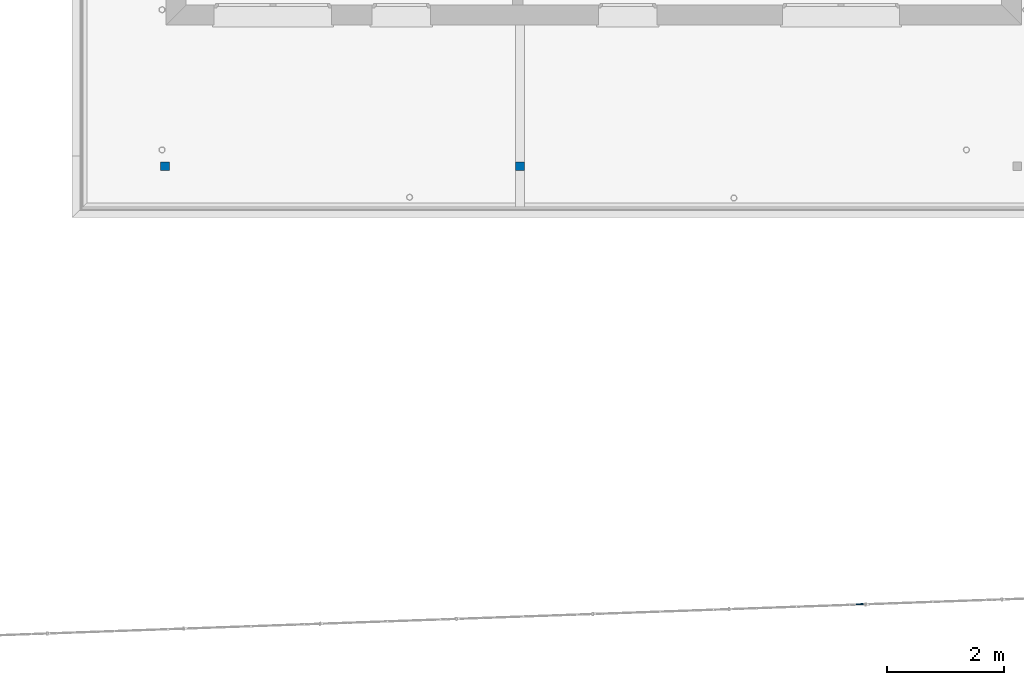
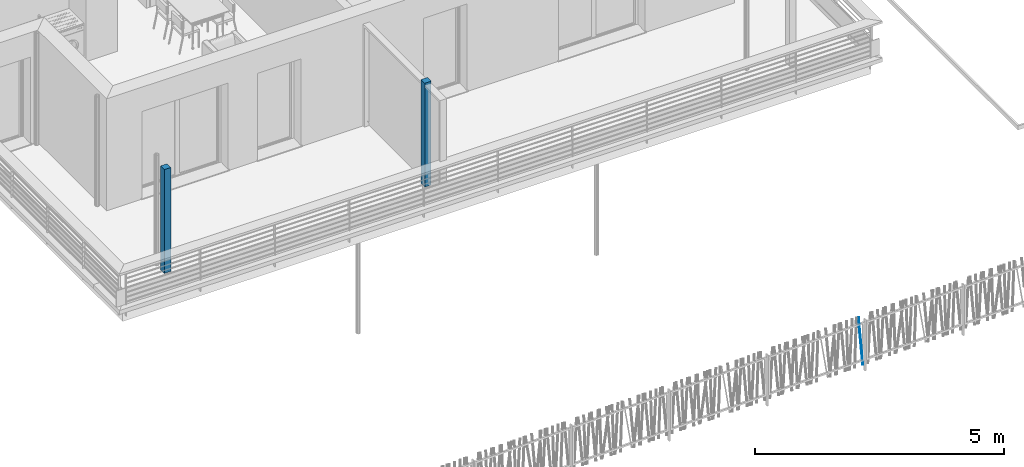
# One storey, part 5 of 171: 3 columns.
"""IFC2X3 building model written with IfcOpenShell, lengths in millimetres."""

from ifc_helpers import new_model, entity, si_unit, converted_unit, derived_unit, money_unit, direction, frame, origin_with_axes, origin_2d_with_axis, place, context, subcontext, project, spatial, rectangle, circle, extrude, clip, halfspace, material, type_object, element, save


model = new_model("IFC2X3")

# Units and contexts
model_context = context("Model", 3, precision=0.01, world=origin_with_axes(), true_north=direction((0.0, 1.0)))
body_context = subcontext(model_context, "Body", "Model", "MODEL_VIEW")
ifc_project = project(units=[si_unit("LENGTHUNIT", "METRE", prefix="MILLI"), si_unit("AREAUNIT", "SQUARE_METRE"), si_unit("VOLUMEUNIT", "CUBIC_METRE"), converted_unit("PLANEANGLEUNIT", "DEGREE", entity("IfcPlaneAngleMeasure", 0.0174532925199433), si_unit("PLANEANGLEUNIT", "RADIAN"), dimensions=[0, 0, 0, 0, 0, 0, 0]), money_unit("USD"), converted_unit("TIMEUNIT", "Year", entity("IfcTimeMeasure", 31557600.0), si_unit("TIMEUNIT", "SECOND"), dimensions=[0, 0, 1, 0, 0, 0, 0]), si_unit("MASSUNIT", "GRAM", prefix="KILO"), si_unit("THERMODYNAMICTEMPERATUREUNIT", "DEGREE_CELSIUS"), si_unit("LUMINOUSINTENSITYUNIT", "LUMEN"), si_unit("ENERGYUNIT", "JOULE", prefix="MEGA"), derived_unit("THERMALCONDUCTANCEUNIT", [(si_unit("POWERUNIT", "WATT"), 1), (si_unit("LENGTHUNIT", "METRE"), -1), (si_unit("THERMODYNAMICTEMPERATUREUNIT", "KELVIN"), -1)]), derived_unit("SPECIFICHEATCAPACITYUNIT", [(si_unit("ENERGYUNIT", "JOULE"), 1), (si_unit("MASSUNIT", "GRAM", prefix="KILO"), -1), (si_unit("THERMODYNAMICTEMPERATUREUNIT", "KELVIN"), -1)]), derived_unit("MASSDENSITYUNIT", [(si_unit("MASSUNIT", "GRAM", prefix="KILO"), 1), (si_unit("VOLUMEUNIT", "CUBIC_METRE"), -1)])], contexts=[model_context])

# Site, building, storey
site_placement = place(None, origin_with_axes())
site = spatial("IfcSite", under=ifc_project, at=site_placement, Name="Site", CompositionType="ELEMENT")
building_placement = place(site_placement, origin_with_axes())
building = spatial("IfcBuilding", under=site, at=building_placement, Name="Bâtiment", CompositionType="ELEMENT")
storey_placement = place(building_placement, frame((0.0, 0.0, 3000.0), z_axis=(0.0, 0.0, 1.0), x_axis=(1.0, 0.0, 0.0)))
storey = spatial("IfcBuildingStorey", under=building, at=storey_placement, Name="rdc", CompositionType="ELEMENT", Elevation=3000.0)

# Columns
ifc_material_1 = material(Name="Empty Fill 2959611567")
column_type_1 = type_object("IfcColumnType", Name="Empty Fill 2959611567 D20", PredefinedType="NOTDEFINED")
column_placement = place(storey_placement, frame((2230101.128642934, -667679.6147038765, -1950.0), z_axis=(0.0, 0.0, 1.0), x_axis=(-0.03567989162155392, 0.9993632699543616, 0.0)))
element("IfcColumn", 1, at=column_placement, inside=storey, type_object=column_type_1, material=ifc_material_1, Name="Pilier-019", context=body_context, shape_type="Clipping", body=[
    clip(clip(extrude(circle(Radius=10.0, at=origin_2d_with_axis()), frame((0.0, -0.152502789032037, -1.743114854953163), z_axis=(0.0, 0.08715574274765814, 0.9961946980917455), x_axis=(1.0, 0.0, 0.0)), (0.0, 0.0, 1.0), 1208.083351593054), halfspace(frame((0.0, 0.0, 0.0), z_axis=(0.0, 0.0, 1.0), x_axis=(0.0, -1.0, 0.0)), True)), halfspace(frame((0.0, 0.0, 1200.0), z_axis=(0.0, 0.0, -1.0), x_axis=(0.0, 1.0, 0.0)), True)),
])
ifc_material_2 = material(Name="Minimal space 288701002")
column_type_2 = type_object("IfcColumnType", Name="Minimal space 288701002 150 x 150", PredefinedType="NOTDEFINED")
for number, where, z_axis, x_axis, name in (
    (2, (2224262.596298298, -660223.1031596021, 0.0), (0.0, 0.0, 1.0), (0.0, -1.0, 0.0), "Pilier-018"),
    (3, (2218214.233338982, -660223.1031596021, 0.0), (0.0, 0.0, 1.0), (0.0, -1.0, 0.0), "Pilier-018"),
):
    element("IfcColumn", number, at=place(storey_placement, frame(where, z_axis=z_axis, x_axis=x_axis)), inside=storey, type_object=column_type_2, material=ifc_material_2, Name=name, context=body_context, shape_type="SweptSolid", body=[
        extrude(rectangle(XDim=150.0, YDim=150.0, at=origin_2d_with_axis()), origin_with_axes(), (0.0, 0.0, 1.0), 2550.0),
    ])

save(model, "model.ifc")
